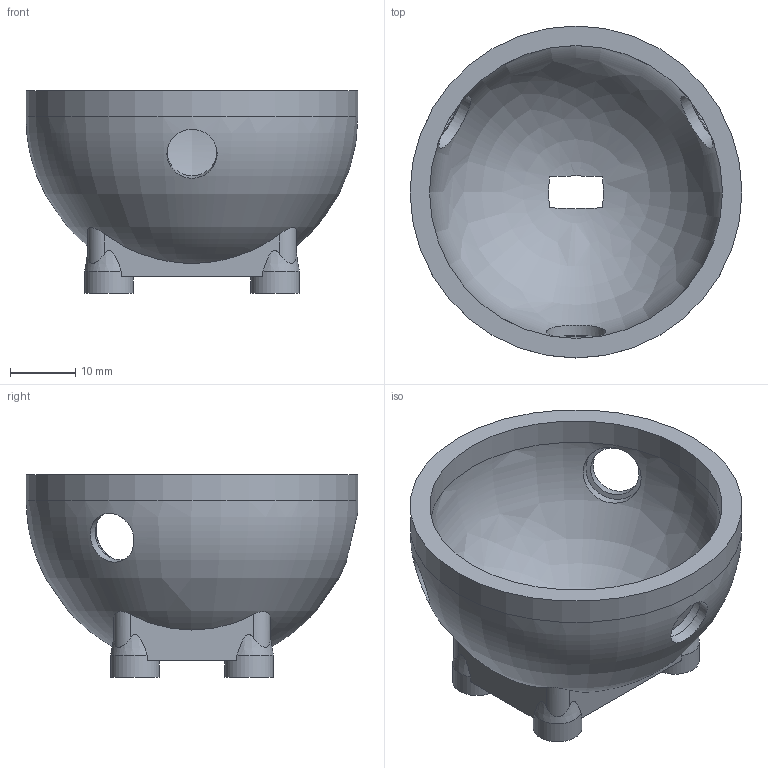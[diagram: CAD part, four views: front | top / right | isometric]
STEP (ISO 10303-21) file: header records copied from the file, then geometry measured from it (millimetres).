
FILE_DESCRIPTION(('Open CASCADE Model'),'2;1');
FILE_NAME('Open CASCADE Shape Model','2026-06-04T07:57:06',('Author'),( 'Open CASCADE'),'Open CASCADE STEP processor 7.6','Open CASCADE 7.6' ,'Unknown');
FILE_SCHEMA(('AP242_MANAGED_MODEL_BASED_3D_ENGINEERING_MIM_LF. {1 0 10303 442 1 1 4 }'));
Length unit declared in the file: millimetre
Products named in the file (1): Open CASCADE STEP translator 7.6 2
Bounding box: 51 x 51 x 31.1 mm (x, y, z)
Volume: 13654.1 mm3; surface area: 9840.8 mm2
Topology: 1 solids, 1 shells, 56 faces, 138 edges, 92 vertices
Faces by surface type: cylinder 24, plane 22, bspline 4, cone 4, revolution 2
Full cylindrical faces by diameter (mm): 3.5 x4, 7.5 x4, 7.7 x3, 9.2 x3, 45 x1, 51 x1
Entity records: 8341 total; most frequent: CARTESIAN_POINT 5634, DIRECTION 474, ORIENTED_EDGE 276, PCURVE 276, DEFINITIONAL_REPRESENTATION 276, LINE 230, VECTOR 230, EDGE_CURVE 138
